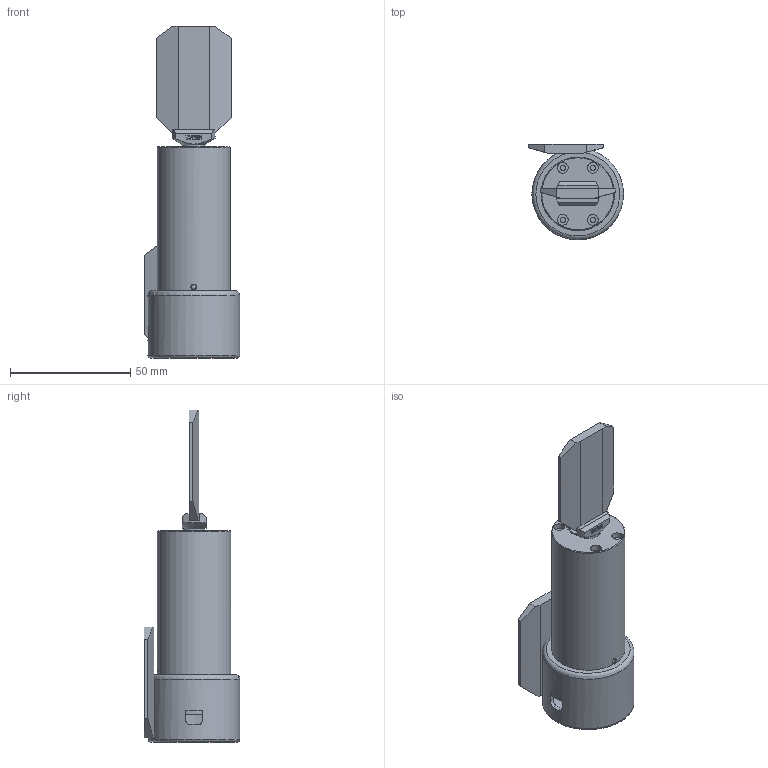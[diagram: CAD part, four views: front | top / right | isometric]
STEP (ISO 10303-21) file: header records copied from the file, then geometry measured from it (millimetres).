
FILE_DESCRIPTION( ( 'Unknown' ), '1' );
FILE_NAME( 'F:/方头/外形尺寸图/电机/3D/光栅电机/20mm光电光栅国产编码器带Y镜片.stp', 'Unknown', ( 'Unknown' ), ( 'Unknown' ), 'XStep 1.0', 'Unknown', ' ' );
FILE_SCHEMA( ( 'CONFIG_CONTROL_DESIGN' ) );
Length unit declared in the file: millimetre
Products named in the file (3): Assem1; 1; 2
Bounding box: 39.47 x 39.72 x 137.77 mm (x, y, z)
Volume: 102156.5 mm3; surface area: 53480 mm2
Topology: 4 solids, 26 shells, 750 faces, 1974 edges, 1316 vertices
Faces by surface type: plane 430, cylinder 164, cone 74, extrusion 36, sphere 24, torus 14, bspline 8
Full cylindrical faces by diameter (mm): 0.1 x2, 1.075 x4, 1.567 x18, 2 x6, 2.013 x2, 2.1 x6, 2.2 x8, 3 x2, 4.5 x8, 5 x4, 6.05 x2, 6.35 x4, 6.9 x2, 7.35 x2, 8.4 x8, 8.95 x2, 9 x2, 9.525 x4, 9.9 x4, 10 x4, 10.719 x2, 11.4 x2, 12 x2, 13.8 x2, 16 x2, 18 x2, 30.48 x2, 32.4 x2, 34 x2, 34.2 x2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
Entity records: 12032 total; most frequent: CARTESIAN_POINT 3722, DIRECTION 1626, ORIENTED_EDGE 1488, EDGE_CURVE 744, AXIS2_PLACEMENT_3D 600, EDGE_LOOP 586, VERTEX_POINT 558, FACE_OUTER_BOUND 443
